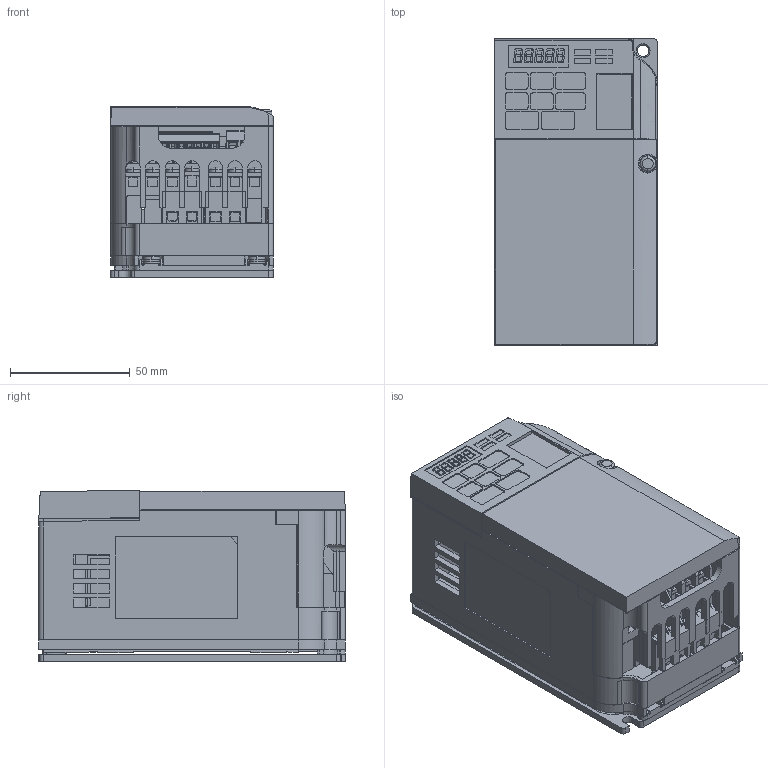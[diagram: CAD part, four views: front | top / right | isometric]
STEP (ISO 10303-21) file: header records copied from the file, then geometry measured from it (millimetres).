
FILE_DESCRIPTION((''),'2;1');
FILE_NAME('VUBA0001JAA_ASM','2010-03-05T',('jmattas'),(''),'PRO/ENGINEER BY PARAMETRIC TECHNOLOGY CORPORATION, 2009380','PRO/ENGINEER BY PARAMETRIC TECHNOLOGY CORPORATION, 2009380','');
FILE_SCHEMA(('CONFIG_CONTROL_DESIGN'));
Products named in the file (6): VUBA0001JAA_BASE; VUBA0001JAA_COVER1; VUBA0001JAA_COVER2; VUBA0001JAA_COVER3; VUBA0001JAA_COVER4; VUBA0001JAA_ASM
Assembly tree (5 placements, depth 2):
  VUBA0001JAA_ASM
    VUBA0001JAA_BASE
    VUBA0001JAA_COVER1
    VUBA0001JAA_COVER2
    VUBA0001JAA_COVER3
    VUBA0001JAA_COVER4
Bounding box: 68 x 128.05 x 71.35 mm (x, y, z)
Volume: 21455.9 mm3; surface area: 156023.4 mm2
Topology: 3 solids, 131 shells, 2454 faces, 7608 edges, 5222 vertices
Faces by surface type: plane 1960, cylinder 311, extrusion 75, torus 50, cone 30, sphere 26, bspline 2
Entity records: 84931 total; most frequent: CARTESIAN_POINT 18750, ORIENTED_EDGE 13270, DIRECTION 12570, EDGE_CURVE 7581, VECTOR 6226, LINE 6151, VERTEX_POINT 5222, AXIS2_PLACEMENT_3D 3172
